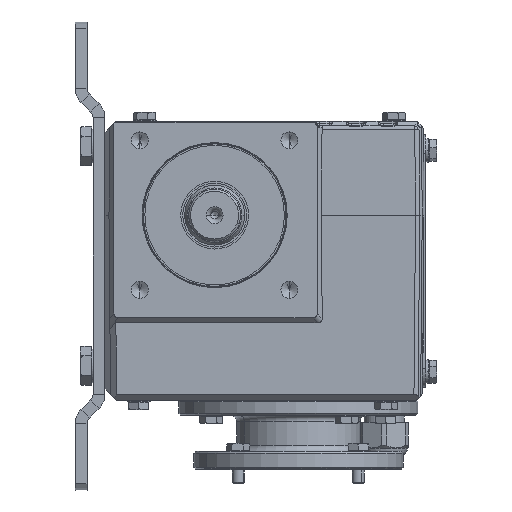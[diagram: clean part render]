
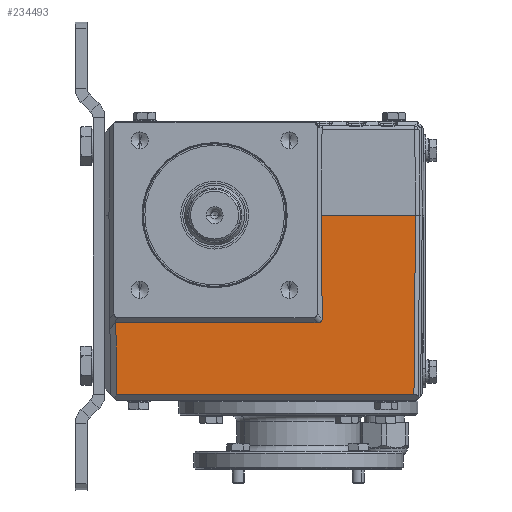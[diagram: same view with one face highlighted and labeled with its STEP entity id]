
A CAD part, left-side view. The second image highlights one B-rep face of the part: STEP entity #234493.
In plain terms, the highlighted planar face has unit normal (-1, 0, -0.009).
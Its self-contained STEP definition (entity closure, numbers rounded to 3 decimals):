
#9401 = DIRECTION ( 'NONE',  ( -0.009, 0.009, 1. ) ) ;
#13386 = CARTESIAN_POINT ( 'NONE',  ( -92.529, -51.85, -53.971 ) ) ;
#14658 = DIRECTION ( 'NONE',  ( 0., -1., 0. ) ) ;
#30290 = VECTOR ( 'NONE', #629668, 1000. ) ;
#50924 = EDGE_CURVE ( 'NONE', #464610, #285680, #401358, .T. ) ;
#67992 = CARTESIAN_POINT ( 'NONE',  ( -93., 53., 0. ) ) ;
#82142 = VERTEX_POINT ( 'NONE', #13386 ) ;
#96932 = EDGE_CURVE ( 'NONE', #200299, #478807, #418521, .T. ) ;
#100463 = CARTESIAN_POINT ( 'NONE',  ( -93., -100.757, 0. ) ) ;
#163840 = CARTESIAN_POINT ( 'NONE',  ( -93., 53., 0. ) ) ;
#177488 = ORIENTED_EDGE ( 'NONE', *, *, #50924, .F. ) ;
#182481 = ORIENTED_EDGE ( 'NONE', *, *, #567917, .F. ) ;
#200299 = VERTEX_POINT ( 'NONE', #486523 ) ;
#208925 = ORIENTED_EDGE ( 'NONE', *, *, #350445, .T. ) ;
#213680 = PLANE ( 'NONE',  #409836 ) ;
#223776 = LINE ( 'NONE', #67992, #436448 ) ;
#227157 = CARTESIAN_POINT ( 'NONE',  ( -92.536, -53.964, -53.188 ) ) ;
#228283 = EDGE_LOOP ( 'NONE', ( #395075, #275381, #375211, #182481, #571815, #177488, #208925, #530845 ) ) ;
#228412 = CARTESIAN_POINT ( 'NONE',  ( -92.548, -53.952, -51.831 ) ) ;
#234493 = ADVANCED_FACE ( 'NONE', ( #626221 ), #213680, .T. ) ;
#268393 = CARTESIAN_POINT ( 'NONE',  ( -92.548, -53.952, -51.831 ) ) ;
#275381 = ORIENTED_EDGE ( 'NONE', *, *, #288022, .T. ) ;
#275707 = DIRECTION ( 'NONE',  ( 0., -1., 0. ) ) ;
#285680 = VERTEX_POINT ( 'NONE', #498612 ) ;
#286785 = VECTOR ( 'NONE', #603300, 1000. ) ;
#288022 = EDGE_CURVE ( 'NONE', #478807, #552668, #502597, .T. ) ;
#305094 = CARTESIAN_POINT ( 'NONE',  ( -92.529, 53., -53.971 ) ) ;
#305347 = LINE ( 'NONE', #305094, #520069 ) ;
#308239 = CARTESIAN_POINT ( 'NONE',  ( -93.008, -53.492, 0.929 ) ) ;
#317058 = CARTESIAN_POINT ( 'NONE',  ( -92.215, 53., -90. ) ) ;
#318775 = DIRECTION ( 'NONE',  ( 0.009, -0.009, -1. ) ) ;
#334453 = EDGE_CURVE ( 'NONE', #200299, #82142, #305347, .T. ) ;
#350445 = EDGE_CURVE ( 'NONE', #464610, #82142, #444065, .T. ) ;
#357293 = CARTESIAN_POINT ( 'NONE',  ( -93., -100.756, 0. ) ) ;
#363002 = DIRECTION ( 'NONE',  ( -1., 0., -0.009 ) ) ;
#375211 = ORIENTED_EDGE ( 'NONE', *, *, #596451, .T. ) ;
#393531 = VECTOR ( 'NONE', #450437, 1000. ) ;
#395075 = ORIENTED_EDGE ( 'NONE', *, *, #96932, .T. ) ;
#396931 = EDGE_CURVE ( 'NONE', #285680, #573776, #399990, .T. ) ;
#399990 = LINE ( 'NONE', #482954, #393531 ) ;
#401358 = LINE ( 'NONE', #308239, #616085 ) ;
#409836 = AXIS2_PLACEMENT_3D ( 'NONE', #163840, #363002, #607904 ) ;
#418521 = LINE ( 'NONE', #622043, #614119 ) ;
#430322 = CARTESIAN_POINT ( 'NONE',  ( -93., -100.757, 0.011 ) ) ;
#436448 = VECTOR ( 'NONE', #275707, 1000. ) ;
#444065 =( BOUNDED_CURVE ( )  B_SPLINE_CURVE ( 3, ( #268393, #227157, #463214, #513210 ),
 .UNSPECIFIED., .F., .F. ) 
 B_SPLINE_CURVE_WITH_KNOTS ( ( 4, 4 ),
 ( 2.61, 3.658 ),
 .UNSPECIFIED. ) 
 CURVE ( )  GEOMETRIC_REPRESENTATION_ITEM ( )  RATIONAL_B_SPLINE_CURVE ( ( 1., 0.911, 0.911, 1. ) ) 
 REPRESENTATION_ITEM ( '' )  );
#450437 = DIRECTION ( 'NONE',  ( 0., -1., 0. ) ) ;
#463214 = CARTESIAN_POINT ( 'NONE',  ( -92.529, -53.195, -53.971 ) ) ;
#464610 = VERTEX_POINT ( 'NONE', #228412 ) ;
#469423 = LINE ( 'NONE', #430322, #30290 ) ;
#477420 = CARTESIAN_POINT ( 'NONE',  ( -92.215, -99.972, -90. ) ) ;
#478807 = VERTEX_POINT ( 'NONE', #558592 ) ;
#482954 = CARTESIAN_POINT ( 'NONE',  ( -93., 53., 0. ) ) ;
#486523 = CARTESIAN_POINT ( 'NONE',  ( -92.529, 49.529, -53.971 ) ) ;
#498612 = CARTESIAN_POINT ( 'NONE',  ( -93., -53.5, 0. ) ) ;
#500649 = VERTEX_POINT ( 'NONE', #100463 ) ;
#502597 = LINE ( 'NONE', #317058, #286785 ) ;
#513210 = CARTESIAN_POINT ( 'NONE',  ( -92.529, -51.85, -53.971 ) ) ;
#520069 = VECTOR ( 'NONE', #14658, 1000. ) ;
#530845 = ORIENTED_EDGE ( 'NONE', *, *, #334453, .F. ) ;
#552668 = VERTEX_POINT ( 'NONE', #477420 ) ;
#558592 = CARTESIAN_POINT ( 'NONE',  ( -92.215, 49.215, -90. ) ) ;
#567917 = EDGE_CURVE ( 'NONE', #573776, #500649, #223776, .T. ) ;
#571815 = ORIENTED_EDGE ( 'NONE', *, *, #396931, .F. ) ;
#573776 = VERTEX_POINT ( 'NONE', #357293 ) ;
#596451 = EDGE_CURVE ( 'NONE', #552668, #500649, #469423, .T. ) ;
#603300 = DIRECTION ( 'NONE',  ( 0., -1., 0. ) ) ;
#607904 = DIRECTION ( 'NONE',  ( -0.009, 0., 1. ) ) ;
#614119 = VECTOR ( 'NONE', #318775, 1000. ) ;
#616085 = VECTOR ( 'NONE', #9401, 1000. ) ;
#622043 = CARTESIAN_POINT ( 'NONE',  ( -92.585, 49.585, -47.5 ) ) ;
#626221 = FACE_OUTER_BOUND ( 'NONE', #228283, .T. ) ;
#629668 = DIRECTION ( 'NONE',  ( -0.009, -0.009, 1. ) ) ;
